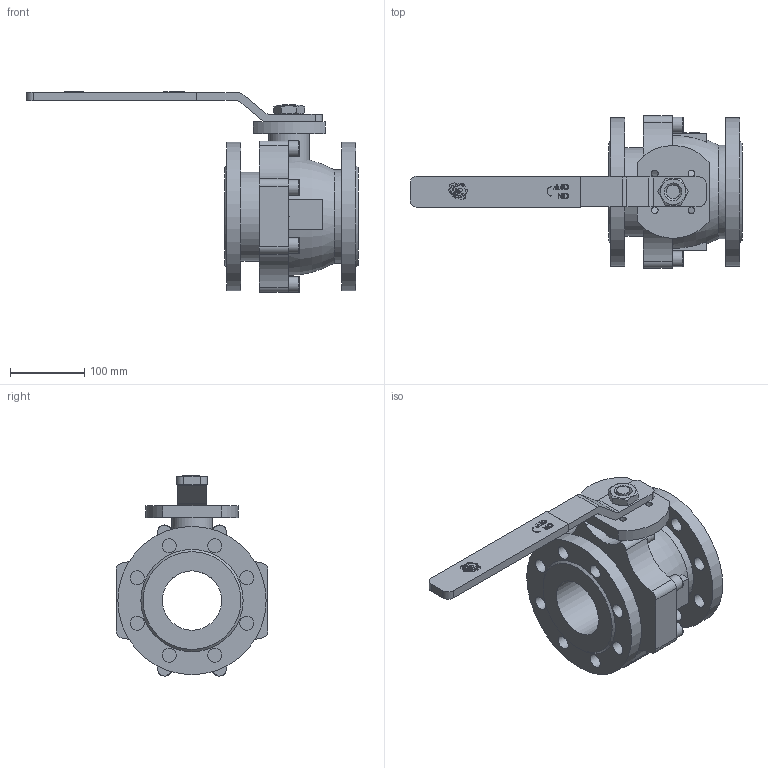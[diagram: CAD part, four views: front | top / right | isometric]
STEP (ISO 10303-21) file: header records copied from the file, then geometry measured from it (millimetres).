
FILE_DESCRIPTION(('STEP AP203'), '1');
FILE_NAME('3D_707-080-16_1', '', ('UNSPECIFIED'), ('UNSPECIFIED'), 'C3D Converter', 'C3D Toolkit', '');
FILE_SCHEMA(('CONFIG_CONTROL_DESIGN'));
Length unit declared in the file: millimetre
Bounding box: 447.97 x 205 x 270.16 mm (x, y, z)
Volume: 3567697.8 mm3; surface area: 389683 mm2
Topology: 37 solids, 37 shells, 3576 faces, 10500 edges, 7013 vertices
Faces by surface type: plane 3496, cylinder 63, torus 11, cone 6
Full cylindrical faces by diameter (mm): 9 x4, 18 x1, 18.088 x1, 19 x16, 21 x8, 55 x1, 80 x1, 120 x1, 126 x1, 200 x2
Entity records: 146683 total; most frequent: CARTESIAN_POINT 22512, ORIENTED_EDGE 20898, DIRECTION 17770, EDGE_CURVE 10449, LINE 10240, VECTOR 10240, VERTEX_POINT 7013, AXIS2_PLACEMENT_3D 3765
